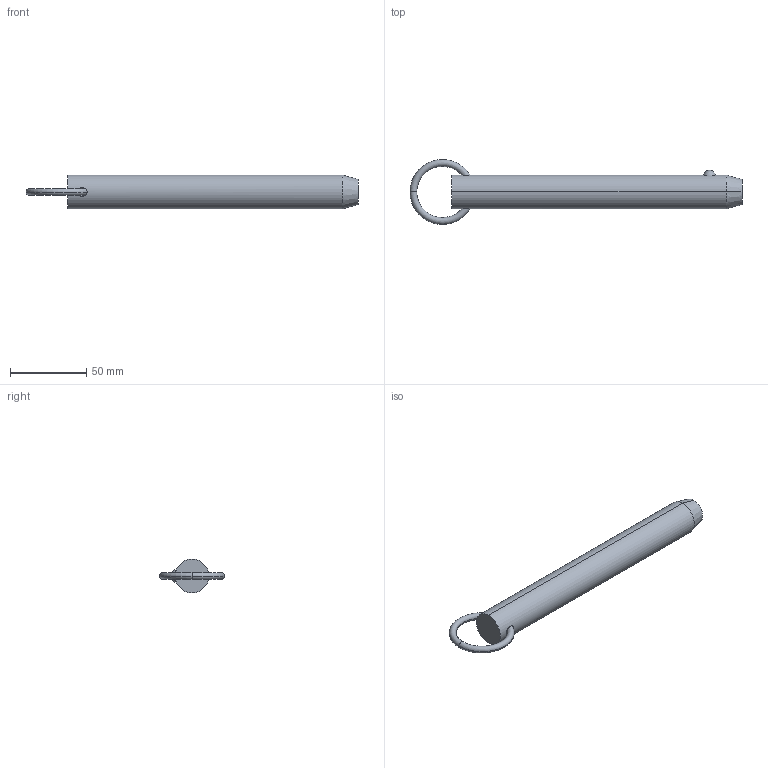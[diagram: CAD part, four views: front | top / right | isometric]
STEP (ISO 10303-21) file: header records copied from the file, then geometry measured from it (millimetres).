
FILE_DESCRIPTION (( 'STEP AP203' ), '1' );
FILE_NAME ('33010.W8860.step', '2024-11-01T10:46:37', ( '' ), ( '' ), 'SwSTEP 2.0', 'SolidWorks 2019', '' );
FILE_SCHEMA (( 'CONFIG_CONTROL_DESIGN' ));
Length unit declared in the file: millimetre
Products named in the file (3): 33010.W8860; Part2_33010.W8860; Part1_33010.W8860
Assembly tree (2 placements, depth 2):
  33010.W8860
    Part1_33010.W8860
    Part2_33010.W8860
Bounding box: 217.86 x 42.55 x 22.23 mm (x, y, z)
Volume: 74405.4 mm3; surface area: 15899.1 mm2
Topology: 2 solids, 2 shells, 16 faces, 31 edges, 18 vertices
Faces by surface type: torus 8, sphere 2, cone 2, cylinder 2, plane 2
Entity records: 903 total; most frequent: CARTESIAN_POINT 260, DIRECTION 88, ORIENTED_EDGE 62, AXIS2_PLACEMENT_3D 42, EDGE_CURVE 31, PERSON_AND_ORGANIZATION 26, CIRCLE 21, LOCAL_TIME 19
